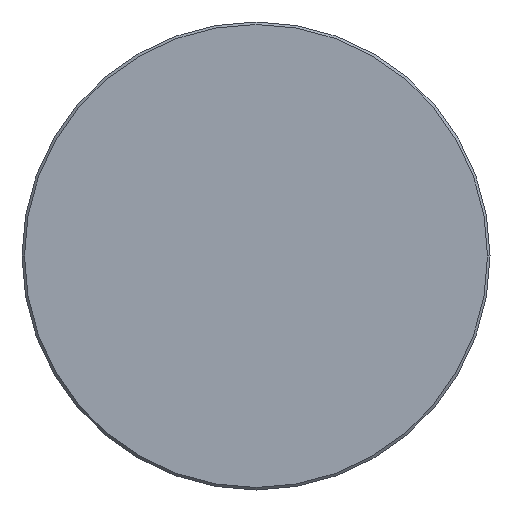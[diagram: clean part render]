
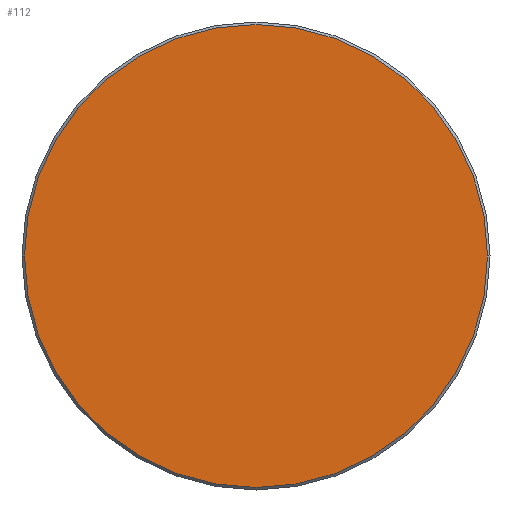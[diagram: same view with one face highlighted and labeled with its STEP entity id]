
A CAD part, left-side view. The second image highlights one B-rep face of the part: STEP entity #112.
In plain terms, the highlighted planar face has unit normal (-1, 0, 0).
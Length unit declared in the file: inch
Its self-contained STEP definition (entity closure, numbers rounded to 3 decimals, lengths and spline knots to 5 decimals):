
#8 = DIRECTION ( 'NONE',  ( 0., -1., 0. ) ) ;
#21 = CARTESIAN_POINT ( 'NONE',  ( 0., 0., 0. ) ) ;
#23 = PLANE ( 'NONE',  #72 ) ;
#34 = CIRCLE ( 'NONE', #48, 0.371 ) ;
#48 = AXIS2_PLACEMENT_3D ( 'NONE', #270, #64, #8 ) ;
#50 = DIRECTION ( 'NONE',  ( 0., -1., 0. ) ) ;
#64 = DIRECTION ( 'NONE',  ( -1., 0., 0. ) ) ;
#67 = VERTEX_POINT ( 'NONE', #131 ) ;
#72 = AXIS2_PLACEMENT_3D ( 'NONE', #289, #168, #111 ) ;
#77 = DIRECTION ( 'NONE',  ( -1., 0., 0. ) ) ;
#84 = CARTESIAN_POINT ( 'NONE',  ( 0., -0.371, 0. ) ) ;
#98 = EDGE_CURVE ( 'NONE', #67, #301, #187, .T. ) ;
#111 = DIRECTION ( 'NONE',  ( 0., -1., 0. ) ) ;
#112 = ADVANCED_FACE ( 'NONE', ( #183 ), #23, .T. ) ;
#131 = CARTESIAN_POINT ( 'NONE',  ( 0., 0.371, 0. ) ) ;
#142 = EDGE_LOOP ( 'NONE', ( #156, #271 ) ) ;
#156 = ORIENTED_EDGE ( 'NONE', *, *, #98, .T. ) ;
#168 = DIRECTION ( 'NONE',  ( -1., 0., 0. ) ) ;
#183 = FACE_OUTER_BOUND ( 'NONE', #142, .T. ) ;
#187 = CIRCLE ( 'NONE', #347, 0.371 ) ;
#270 = CARTESIAN_POINT ( 'NONE',  ( 0., 0., 0. ) ) ;
#271 = ORIENTED_EDGE ( 'NONE', *, *, #365, .T. ) ;
#289 = CARTESIAN_POINT ( 'NONE',  ( 0., 0., 0. ) ) ;
#301 = VERTEX_POINT ( 'NONE', #84 ) ;
#347 = AXIS2_PLACEMENT_3D ( 'NONE', #21, #77, #50 ) ;
#365 = EDGE_CURVE ( 'NONE', #301, #67, #34, .T. ) ;
